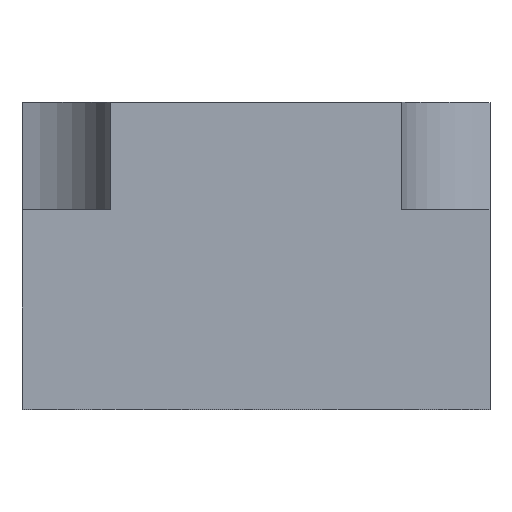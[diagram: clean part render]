
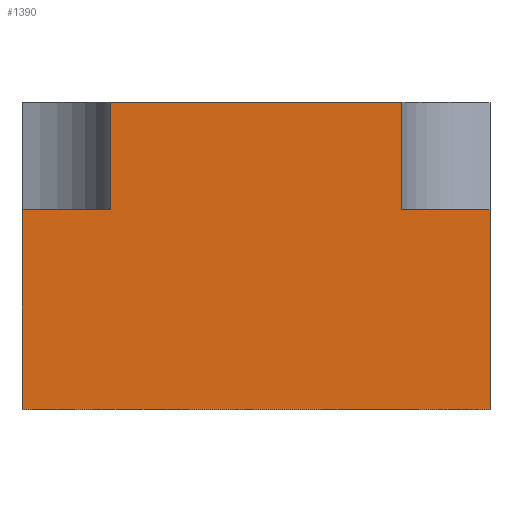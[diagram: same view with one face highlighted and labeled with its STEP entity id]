
A CAD part, top view. The second image highlights one B-rep face of the part: STEP entity #1390.
In plain terms, the highlighted planar face has unit normal (0, 0, 1).
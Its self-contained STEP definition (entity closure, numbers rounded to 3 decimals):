
#242=DIRECTION('',(1.,0.,0.));
#243=VECTOR('',#242,11.5);
#244=CARTESIAN_POINT('',(0.,26.,30.));
#245=LINE('',#244,#243);
#249=DIRECTION('',(0.,-1.,0.));
#250=VECTOR('',#249,14.);
#251=CARTESIAN_POINT('',(11.5,40.,30.));
#252=LINE('',#251,#250);
#256=DIRECTION('',(-1.,0.,0.));
#257=VECTOR('',#256,38.);
#258=CARTESIAN_POINT('',(49.5,40.,30.));
#259=LINE('',#258,#257);
#263=DIRECTION('',(0.,-1.,0.));
#264=VECTOR('',#263,14.);
#265=CARTESIAN_POINT('',(49.5,40.,30.));
#266=LINE('',#265,#264);
#270=DIRECTION('',(1.,0.,0.));
#271=VECTOR('',#270,11.5);
#272=CARTESIAN_POINT('',(49.5,26.,30.));
#273=LINE('',#272,#271);
#277=DIRECTION('',(0.,1.,0.));
#278=VECTOR('',#277,26.);
#279=CARTESIAN_POINT('',(61.,0.,30.));
#280=LINE('',#279,#278);
#284=DIRECTION('',(1.,0.,0.));
#285=VECTOR('',#284,61.);
#286=CARTESIAN_POINT('',(0.,0.,30.));
#287=LINE('',#286,#285);
#291=DIRECTION('',(0.,-1.,0.));
#292=VECTOR('',#291,26.);
#293=CARTESIAN_POINT('',(0.,26.,30.));
#294=LINE('',#293,#292);
#1043=CARTESIAN_POINT('',(0.,0.,30.));
#1044=CARTESIAN_POINT('',(61.,0.,30.));
#1045=VERTEX_POINT('',#1043);
#1046=VERTEX_POINT('',#1044);
#1068=CARTESIAN_POINT('',(11.5,26.,30.));
#1070=VERTEX_POINT('',#1068);
#1071=CARTESIAN_POINT('',(49.5,26.,30.));
#1073=VERTEX_POINT('',#1071);
#1075=CARTESIAN_POINT('',(0.,26.,30.));
#1076=VERTEX_POINT('',#1075);
#1077=CARTESIAN_POINT('',(61.,26.,30.));
#1078=VERTEX_POINT('',#1077);
#1079=CARTESIAN_POINT('',(11.5,40.,30.));
#1080=VERTEX_POINT('',#1079);
#1081=CARTESIAN_POINT('',(49.5,40.,30.));
#1082=VERTEX_POINT('',#1081);
#1371=CARTESIAN_POINT('',(0.,0.,30.));
#1372=DIRECTION('',(0.,0.,1.));
#1373=DIRECTION('',(1.,0.,0.));
#1374=AXIS2_PLACEMENT_3D('',#1371,#1372,#1373);
#1375=PLANE('',#1374);
#1376=ORIENTED_EDGE('',*,*,#1338,.T.);
#1377=ORIENTED_EDGE('',*,*,#1327,.F.);
#1378=ORIENTED_EDGE('',*,*,#1300,.F.);
#1380=ORIENTED_EDGE('',*,*,#1379,.T.);
#1381=ORIENTED_EDGE('',*,*,#1360,.T.);
#1383=ORIENTED_EDGE('',*,*,#1382,.F.);
#1385=ORIENTED_EDGE('',*,*,#1384,.F.);
#1387=ORIENTED_EDGE('',*,*,#1386,.F.);
#1388=EDGE_LOOP('',(#1376,#1377,#1378,#1380,#1381,#1383,#1385,#1387));
#1389=FACE_OUTER_BOUND('',#1388,.F.);
#1300=EDGE_CURVE('',#1082,#1080,#259,.T.);
#1327=EDGE_CURVE('',#1080,#1070,#252,.T.);
#1338=EDGE_CURVE('',#1076,#1070,#245,.T.);
#1360=EDGE_CURVE('',#1073,#1078,#273,.T.);
#1379=EDGE_CURVE('',#1082,#1073,#266,.T.);
#1382=EDGE_CURVE('',#1046,#1078,#280,.T.);
#1384=EDGE_CURVE('',#1045,#1046,#287,.T.);
#1386=EDGE_CURVE('',#1076,#1045,#294,.T.);
#1390=ADVANCED_FACE('',(#1389),#1375,.T.);
